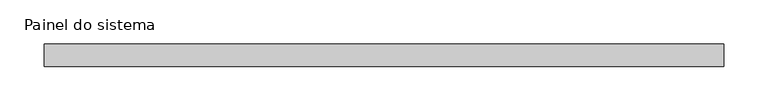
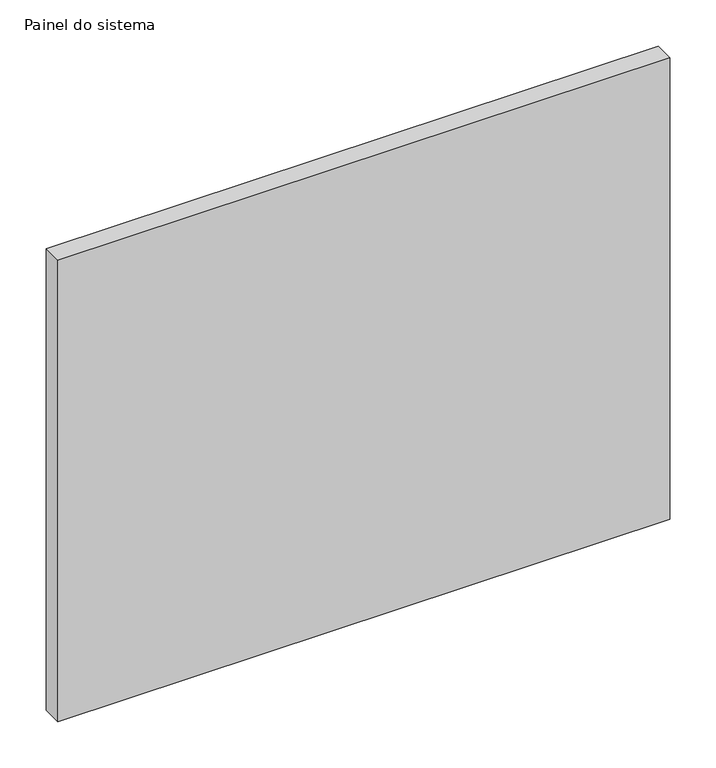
"""IFC4 building model written with IfcOpenShell, lengths in millimetres: plate geometry, Painel do sistema : Envidraçado."""

from ifc_helpers import new_model, si_unit, origin, origin_with_axes, place, context, project, spatial, polyline, outline, extrude, source, transform, mapped, element, save


def painel_do_sistema_6969ed2e(model_context):
    return source(origin(), model_context, "Body", "SweptSolid", [
        extrude(outline(polyline([(382.5, 24.5), (-382.5, 24.5), (-382.5, 49.5), (382.5, 49.5), (382.5, 24.5)])), origin_with_axes(), (0.0, 0.0, 1.0), 610.0),
    ])


if __name__ == "__main__":
    model = new_model("IFC4")
    model_context = context("Model", 3, world=origin())
    ifc_project = project(units=[si_unit("LENGTHUNIT", "METRE", prefix="MILLI")], contexts=[model_context])
    site = spatial("IfcSite", under=ifc_project)
    building = spatial("IfcBuilding", under=site)
    placement = place(None, origin())
    painel_do_sistema_shape = painel_do_sistema_6969ed2e(model_context)
    element("IfcPlate", 1, ObjectType="Painel do sistema : Envidraçado", at=placement, inside=building, context=model_context, shape_type="MappedRepresentation", body=[
        mapped(painel_do_sistema_shape, transform((0.0, 0.0, 0.0), x_axis=(1.0, 0.0, 0.0), y_axis=(0.0, 1.0, 0.0), z_axis=(0.0, 0.0, 1.0))),
    ])
    save(model, "model.ifc")
